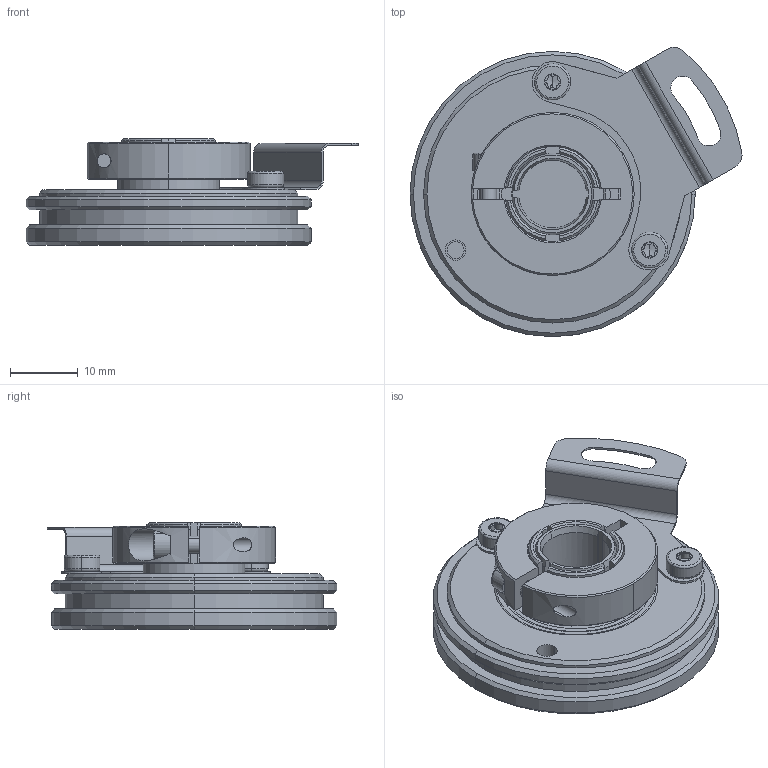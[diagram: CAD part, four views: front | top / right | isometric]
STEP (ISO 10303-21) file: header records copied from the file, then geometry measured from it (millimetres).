
FILE_DESCRIPTION (( 'STEP AP203' ), '1' );
FILE_NAME ('MCD-V100-Q3A-N.STEP', '2013-10-24T19:20:13', ( 'Admin' ), ( 'Microsoft' ), 'SwSTEP 2.0', 'SolidWorks 2006104', '' );
FILE_SCHEMA (( 'CONFIG_CONTROL_DESIGN' ));
Length unit declared in the file: millimetre
Products named in the file (1): MCD-V100-Q3A-N
Bounding box: 48.89 x 42.6 x 15.7 mm (x, y, z)
Volume: 11279.1 mm3; surface area: 11478.5 mm2
Topology: 24 solids, 24 shells, 560 faces, 1325 edges, 802 vertices
Faces by surface type: cone 202, cylinder 182, plane 102, torus 46, sphere 28
Entity records: 16129 total; most frequent: CARTESIAN_POINT 3247, DIRECTION 2956, ORIENTED_EDGE 2498, EDGE_CURVE 1249, AXIS2_PLACEMENT_3D 1239, VERTEX_POINT 760, CIRCLE 678, EDGE_LOOP 603
